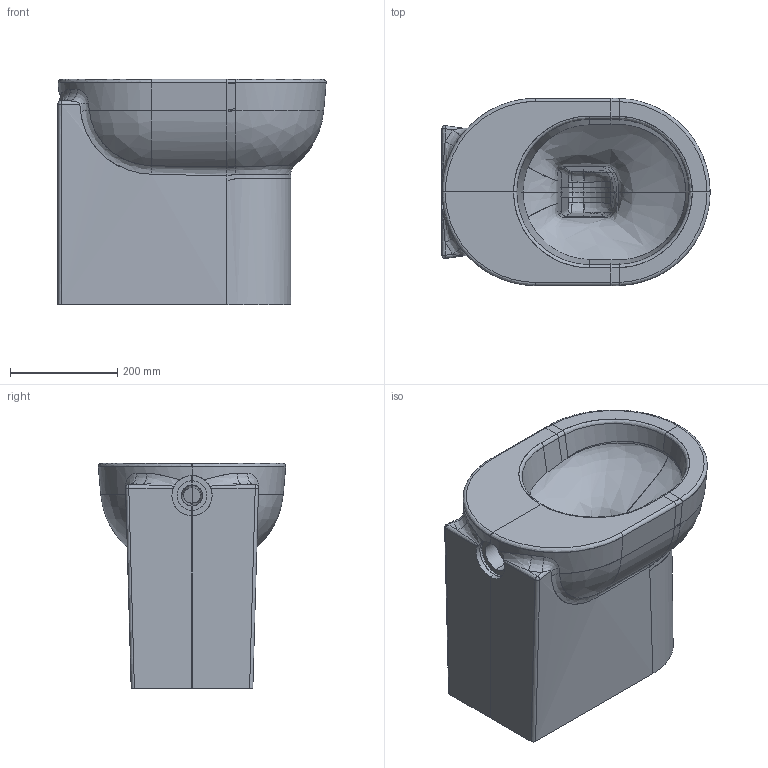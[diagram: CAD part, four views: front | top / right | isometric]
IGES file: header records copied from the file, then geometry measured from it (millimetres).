
Start section: START RECORD GO HERE.
Global section: file name: ART 5214 Vaso M2 50.igs; native system: DASSAULT SYSTEMES CATIA V5 R19 - www.3ds.com; preprocessor: CATIA Version 5 Release 19 SP 5 ; author: Luca; organization: DESKTOP-V7SON24; date: 20201026.085034; units: millimetre
Bounding box: 499.94 x 349.16 x 419.83 mm (x, y, z)
Surface area: 1031699.7 mm2 (no closed solid volume)
Topology: 0 solids, 0 shells, 286 faces, 2224 edges, 2214 vertices
Faces by surface type: bspline 252, plane 34
